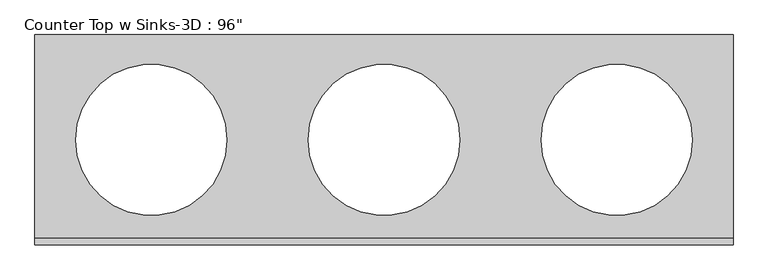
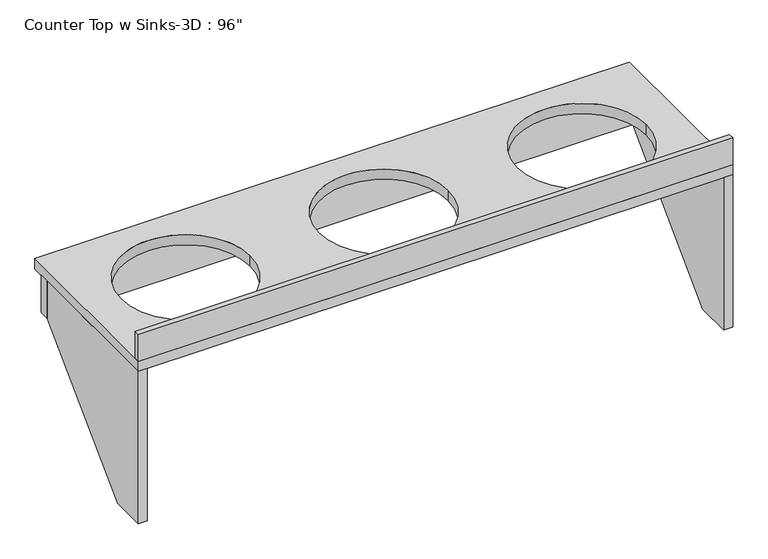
"""IFC4 building model written with IfcOpenShell, lengths in millimetres: furniture geometry."""

from ifc_helpers import new_model, si_unit, point, frame, frame_2d, origin, place, context, project, spatial, polyline, circle_curve, trimmed, segment, composite_curve, outline, extrude, source, transform, mapped, element, save


def furniture_0f6f437d(model_context):
    return source(origin(), model_context, "Body", "SweptSolid", [
        extrude(outline(polyline([(171.45, 825.5), (730.25, 825.5), (730.25, 685.8), (298.45, 254.0), (171.45, 254.0), (171.45, 825.5)])), frame((-1116.1103038, 0.0, 0.0), z_axis=(1.0, 0.0, 0.0), x_axis=(0.0, 1.0, 0.0)), (0.0, 0.0, 1.0), 31.75),
        extrude(outline(polyline([(171.45, 825.5), (730.25, 825.5), (730.25, 685.8), (298.45, 254.0), (171.45, 254.0), (171.45, 825.5)])), frame((960.3396962, 0.0, 0.0), z_axis=(1.0, 0.0, 0.0), x_axis=(0.0, 1.0, 0.0)), (0.0, 0.0, 1.0), 31.75),
        extrude(outline(polyline([(-1116.1103038, 730.25), (-1116.1103038, 768.35), (992.0896962, 768.35), (992.0896962, 730.25), (-1116.1103038, 730.25)])), frame((0.0, 0.0, 685.8), z_axis=(0.0, 0.0, 1.0), x_axis=(1.0, 0.0, 0.0)), (0.0, 0.0, 1.0), 139.7),
        extrude(outline(polyline([(992.0896962, 171.45), (-1116.1103038, 171.45), (-1116.1103038, 190.5), (992.0896962, 190.5), (992.0896962, 171.45)])), frame((0.0, 0.0, 863.6), z_axis=(0.0, 0.0, 1.0), x_axis=(1.0, 0.0, 0.0)), (0.0, 0.0, 1.0), 101.6),
        extrude(outline(polyline([(992.0896962, 171.45), (-1116.1103038, 171.45), (-1116.1103038, 806.45), (992.0896962, 806.45), (992.0896962, 171.45)]), holes=[composite_curve([segment(trimmed(circle_curve(frame_2d((-764.7436371, 488.95)), 228.6), [point((-993.3436371, 488.95))], [point((-536.1436371, 488.95))], True, "CARTESIAN"), True, "CONTINUOUS"), segment(trimmed(circle_curve(frame_2d((-764.7436371, 488.95)), 228.6), [point((-536.1436371, 488.95))], [point((-993.3436371, 488.95))], True, "CARTESIAN"), True, "CONTINUOUS")], self_intersect=False), composite_curve([segment(trimmed(circle_curve(frame_2d((640.7230295, 488.95)), 228.6), [point((412.1230295, 488.95))], [point((869.3230295, 488.95))], True, "CARTESIAN"), True, "CONTINUOUS"), segment(trimmed(circle_curve(frame_2d((640.7230295, 488.95)), 228.6), [point((869.3230295, 488.95))], [point((412.1230295, 488.95))], True, "CARTESIAN"), True, "CONTINUOUS")], self_intersect=False), composite_curve([segment(trimmed(circle_curve(frame_2d((-62.0103038, 488.95)), 228.6), [point((-290.6103038, 488.95))], [point((166.5896962, 488.95))], True, "CARTESIAN"), True, "CONTINUOUS"), segment(trimmed(circle_curve(frame_2d((-62.0103038, 488.95)), 228.6), [point((166.5896962, 488.95))], [point((-290.6103038, 488.95))], True, "CARTESIAN"), True, "CONTINUOUS")], self_intersect=False)]), frame((0.0, 0.0, 825.5), z_axis=(0.0, 0.0, 1.0), x_axis=(1.0, 0.0, 0.0)), (0.0, 0.0, 1.0), 38.1),
    ])


if __name__ == "__main__":
    model = new_model("IFC4")
    model_context = context("Model", 3, world=origin())
    ifc_project = project(units=[si_unit("LENGTHUNIT", "METRE", prefix="MILLI")], contexts=[model_context])
    site = spatial("IfcSite", under=ifc_project)
    building = spatial("IfcBuilding", under=site)
    placement = place(None, origin())
    furniture_shape = furniture_0f6f437d(model_context)
    element("IfcFurniture", 1, ObjectType="Counter Top w Sinks-3D : 96\"", at=placement, inside=building, context=model_context, shape_type="MappedRepresentation", body=[
        mapped(furniture_shape, transform((0.0, 0.0, 0.0), x_axis=(1.0, 0.0, 0.0), y_axis=(0.0, 1.0, 0.0), z_axis=(0.0, 0.0, 1.0))),
    ])
    save(model, "model.ifc")
